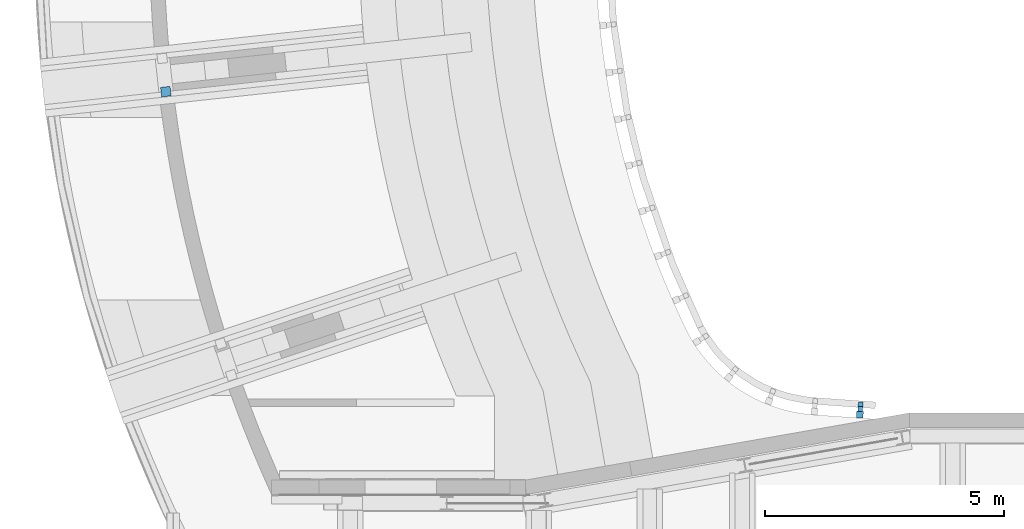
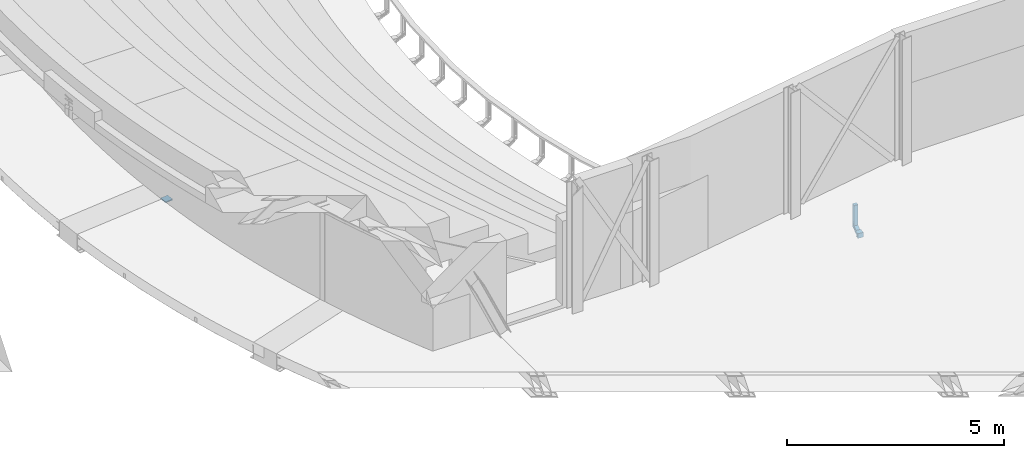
# One storey, part 35 of 68: 2 beams.
"""IFC2X3 building model written with IfcOpenShell, lengths in millimetres."""

from ifc_helpers import new_model, entity, si_unit, converted_unit, derived_unit, direction, frame, frame_2d, origin, place, context, subcontext, project, spatial, rectangle, extrude, faceted_brep, source, transform, mapped, material, type_object, type_shapes, element, save


model = new_model("IFC2X3")

# Units and contexts
model_context = context("Model", 3, precision=0.01, world=origin(), true_north=direction((6.12303176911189e-17, 1.0)))
body_context = subcontext(model_context, "Body", "Model", "MODEL_VIEW")
ifc_project = project(units=[si_unit("LENGTHUNIT", "METRE", prefix="MILLI"), si_unit("AREAUNIT", "SQUARE_METRE", prefix="MILLI"), si_unit("VOLUMEUNIT", "CUBIC_METRE"), converted_unit("PLANEANGLEUNIT", "DEGREE", entity("IfcRatioMeasure", 0.0174532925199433), si_unit("PLANEANGLEUNIT", "RADIAN"), dimensions=[0, 0, 0, 0, 0, 0, 0]), si_unit("MASSUNIT", "GRAM", prefix="KILO"), derived_unit("MASSDENSITYUNIT", [(si_unit("MASSUNIT", "GRAM", prefix="KILO"), 1), (si_unit("LENGTHUNIT", "METRE"), -3)]), derived_unit("MOMENTOFINERTIAUNIT", [(si_unit("LENGTHUNIT", "METRE"), 4)]), si_unit("TIMEUNIT", "SECOND"), si_unit("FREQUENCYUNIT", "HERTZ"), si_unit("THERMODYNAMICTEMPERATUREUNIT", "DEGREE_CELSIUS"), derived_unit("THERMALTRANSMITTANCEUNIT", [(si_unit("MASSUNIT", "GRAM", prefix="KILO"), 1), (si_unit("THERMODYNAMICTEMPERATUREUNIT", "KELVIN"), -1), (si_unit("TIMEUNIT", "SECOND"), -3)]), derived_unit("VOLUMETRICFLOWRATEUNIT", [(si_unit("LENGTHUNIT", "METRE"), 3), (si_unit("TIMEUNIT", "SECOND"), -1)]), si_unit("ELECTRICCURRENTUNIT", "AMPERE"), si_unit("ELECTRICVOLTAGEUNIT", "VOLT"), si_unit("POWERUNIT", "WATT"), si_unit("FORCEUNIT", "NEWTON", prefix="KILO"), si_unit("ILLUMINANCEUNIT", "LUX"), si_unit("LUMINOUSFLUXUNIT", "LUMEN"), si_unit("LUMINOUSINTENSITYUNIT", "CANDELA"), derived_unit("USERDEFINED", [(si_unit("MASSUNIT", "GRAM", prefix="KILO"), -1), (si_unit("LENGTHUNIT", "METRE"), -2), (si_unit("TIMEUNIT", "SECOND"), 3), (si_unit("LUMINOUSFLUXUNIT", "LUMEN"), 1)]), derived_unit("LINEARVELOCITYUNIT", [(si_unit("LENGTHUNIT", "METRE"), 1), (si_unit("TIMEUNIT", "SECOND"), -1)]), si_unit("PRESSUREUNIT", "PASCAL"), derived_unit("USERDEFINED", [(si_unit("LENGTHUNIT", "METRE"), -2), (si_unit("MASSUNIT", "GRAM", prefix="KILO"), 1), (si_unit("TIMEUNIT", "SECOND"), -2)]), derived_unit("LINEARFORCEUNIT", [(si_unit("MASSUNIT", "GRAM", prefix="KILO"), 1), (si_unit("LENGTHUNIT", "METRE"), 1), (si_unit("TIMEUNIT", "SECOND"), -2), (si_unit("LENGTHUNIT", "METRE"), -1)]), derived_unit("PLANARFORCEUNIT", [(si_unit("MASSUNIT", "GRAM", prefix="KILO"), 1), (si_unit("LENGTHUNIT", "METRE"), 1), (si_unit("TIMEUNIT", "SECOND"), -2), (si_unit("LENGTHUNIT", "METRE"), -2)])], contexts=[model_context])

# Site, building, storey
site_placement = place(None, origin())
site = spatial("IfcSite", under=ifc_project, at=site_placement, Name="Theater aan de Parade", CompositionType="ELEMENT")
building_placement = place(site_placement, origin())
building = spatial("IfcBuilding", under=site, at=building_placement, Name="Theater aan de Parade", CompositionType="ELEMENT")
storey_placement = place(building_placement, frame((0.0, 0.0, 8750.0)))
storey = spatial("IfcBuildingStorey", under=building, at=storey_placement, Name="02 tweede verdieping", CompositionType="ELEMENT", Elevation=8750.0)

# Beams
ifc_material_1 = material(Name="00_PBT_MAT_staal")
beam_type_1 = type_object("IfcBeamType", Name="28_PBT_SF_staal_strip:strip 200x30_opgelaste plaat", PredefinedType="NOTDEFINED")
beam_1_placement = place(storey_placement, frame((43956.1468359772, 29064.9993472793, 0.0), z_axis=(0.0, 0.0, 1.0), x_axis=(0.99427629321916, 0.106839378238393, 0.0)))
element("IfcBeam", 1, at=beam_1_placement, inside=storey, type_object=beam_type_1, material=ifc_material_1, Name="28_PBT_SF_staal_strip:strip 200x30_opgelaste plaat", ObjectType="28_PBT_SF_staal_strip:strip 200x30_opgelaste plaat", context=body_context, shape_type="SweptSolid", body=[
    extrude(rectangle(XDim=29.9999999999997, YDim=200.000000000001, at=frame_2d((0.0, 2.1600499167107e-12), x_axis=(1.0, 0.0))), frame((0.0, 0.0, -140.0), z_axis=(1.0, 0.0, 0.0), x_axis=(0.0, 0.0, -1.0)), (0.0, 0.0, 1.0), 200.000000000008),
])
ifc_material_2 = material(Name="00_PBT_MAT_staal_S355")
beam_type_2 = type_object("IfcBeamType", Name="28_PBT_SF_staal_baluster balkon:baluster HEA100", PredefinedType="BEAM", material=ifc_material_2)
shared_shape = source(origin(), body_context, "Body", "Brep", [
    faceted_brep([(50.0, 43.537813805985, 625.0), (50.0, 43.537813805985, 635.0), (50.0, -44.0, 635.0), (50.0, -44.0, 625.0), (-50.0, 43.537813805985, 625.0), (-50.0, -44.0, 625.0), (-50.0, -44.0, 635.0), (-50.0, 43.537813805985, 635.0)], [[[0, 1, 2, 3]], [[4, 5, 6, 7]], [[3, 5, 4, 0]], [[2, 6, 5, 3]], [[1, 7, 6, 2]], [[0, 4, 7, 1]]]),
    faceted_brep([(70.0, -278.0, -133.0), (70.0, -278.0, 0.0), (70.0, -290.0, 0.0), (70.0, -290.0, -133.0), (-70.0, -278.0, -133.0), (-70.0, -290.0, -133.0), (-70.0, -290.0, 0.0), (-70.0, -278.0, 0.0)], [[[0, 1, 2, 3]], [[4, 5, 6, 7]], [[3, 5, 4, 0]], [[2, 6, 5, 3]], [[1, 7, 6, 2]], [[0, 4, 7, 1]]]),
    faceted_brep([(70.0, -278.0, -133.0), (70.0, -278.0, -124.5), (14.7499999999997, -278.0, -124.5), (11.6441714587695, -278.0, -124.091109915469), (8.74999999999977, -278.0, -122.892304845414), (6.26471862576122, -278.0, -120.985281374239), (4.35769515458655, -278.0, -118.5), (3.15889008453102, -278.0, -115.60582854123), (2.74999999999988, -278.0, -112.5), (2.74999999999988, -278.0, -20.5000000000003), (3.15889008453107, -278.0, -17.39417145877), (4.35769515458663, -278.0, -14.5000000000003), (6.26471862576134, -278.0, -12.0147186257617), (8.74999999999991, -278.0, -10.107695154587), (11.6441714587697, -278.0, -8.90889008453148), (14.7499999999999, -278.0, -8.50000000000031), (70.0, -278.0, -8.50000000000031), (70.0, -278.0, 0.0), (-70.0, -278.0, 0.0), (-70.0, -278.0, -8.50000000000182), (-14.7499999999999, -278.0, -8.50000000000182), (-11.6441714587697, -278.0, -8.90889008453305), (-8.74999999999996, -278.0, -10.1076951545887), (-6.26471862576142, -278.0, -12.0147186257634), (-4.35769515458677, -278.0, -14.500000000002), (-3.15889008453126, -278.0, -17.3941714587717), (-2.75000000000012, -278.0, -20.5000000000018), (-2.75000000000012, -278.0, -112.500000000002), (-3.15889008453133, -278.0, -115.605828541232), (-4.3576951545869, -278.0, -118.500000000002), (-6.26471862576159, -278.0, -120.98528137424), (-8.75000000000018, -278.0, -122.892304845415), (-11.6441714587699, -278.0, -124.091109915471), (-14.7500000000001, -278.0, -124.500000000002), (-70.0, -278.0, -124.500000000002), (-70.0, -278.0, -133.0), (70.0, -154.37480362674, -8.50000000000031), (70.0, -151.923048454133, 0.0), (70.0, -190.285805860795, -133.0), (70.0, -187.834050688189, -124.5), (14.7499999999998, -214.852904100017, -8.50000000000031), (14.7499999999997, -154.37480362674, -8.50000000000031), (-70.0, -154.37480362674, -8.50000000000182), (-14.7500000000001, -154.37480362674, -8.50000000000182), (-14.7500000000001, -214.852905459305, -8.50000000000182), (6.43965673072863, -216.327371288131, -11.8433150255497), (2.74999999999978, -217.521904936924, -20.5000000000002), (12.079748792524, -154.461585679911, -8.8008650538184), (9.5433951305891, -154.717580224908, -9.68837358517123), (5.36802221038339, -155.678018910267, -13.0181223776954), (7.26812237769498, -155.129950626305, -11.1180222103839), (2.74999999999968, -157.83610504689, -20.5000000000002), (3.05086505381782, -157.065893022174, -17.8297487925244), (3.9383735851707, -156.334302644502, -15.2933951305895), (2.74999999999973, -184.372749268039, -112.5), (3.93837358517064, -185.874551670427, -117.706604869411), (3.05086505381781, -185.142961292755, -115.170251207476), (5.36802221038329, -186.530835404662, -119.981877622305), (7.26812237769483, -187.078903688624, -121.881977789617), (9.54339513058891, -187.491274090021, -123.311626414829), (12.0797487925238, -187.747268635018, -124.199134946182), (14.7499999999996, -187.834050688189, -124.5), (-14.7500000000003, -187.83405068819, -124.500000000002), (-70.0, -187.83405068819, -124.500000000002), (-70.0, -190.285805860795, -133.0), (-70.0, -151.923048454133, 0.0), (-9.54339513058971, -187.491274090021, -123.311626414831), (-12.0797487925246, -187.747268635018, -124.199134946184), (-7.2681223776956, -187.078903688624, -121.881977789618), (-5.36802221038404, -186.530835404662, -119.981877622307), (-3.93837358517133, -185.874551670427, -117.706604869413), (-3.05086505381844, -185.142961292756, -115.170251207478), (-2.75000000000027, -184.37274926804, -112.500000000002), (-2.75000000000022, -217.521899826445, -20.500000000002), (-2.75000000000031, -157.83610504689, -20.500000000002), (-6.43965718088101, -216.327373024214, -11.8433145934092), (-3.05086505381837, -157.065893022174, -17.8297487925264), (-3.93837358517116, -156.334302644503, -15.2933951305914), (-7.2681223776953, -155.129950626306, -11.1180222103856), (-5.36802221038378, -155.678018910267, -13.0181223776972), (-12.0797487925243, -154.461585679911, -8.80086505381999), (-9.54339513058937, -154.717580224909, -9.68837358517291)], [[[0, 1, 2, 3, 4, 5, 6, 7, 8, 9, 10, 11, 12, 13, 14, 15, 16, 17, 18, 19, 20, 21, 22, 23, 24, 25, 26, 27, 28, 29, 30, 31, 32, 33, 34, 35]], [[36, 37, 17, 16]], [[38, 39, 1, 0]], [[36, 16, 15, 40, 41]], [[19, 42, 43, 44, 20]], [[13, 45, 14]], [[12, 45, 13]], [[46, 45, 11]], [[47, 41, 40]], [[14, 40, 15]], [[45, 12, 11]], [[48, 47, 40]], [[49, 50, 45]], [[10, 9, 46]], [[40, 45, 48]], [[11, 10, 46]], [[46, 51, 52]], [[53, 46, 52]], [[46, 53, 45]], [[45, 53, 49]], [[45, 50, 48]], [[14, 45, 40]], [[54, 51, 46, 9, 8]], [[7, 6, 55]], [[8, 7, 56]], [[56, 54, 8]], [[57, 55, 6]], [[56, 7, 55]], [[6, 5, 57]], [[58, 5, 4]], [[59, 4, 3]], [[60, 3, 2]], [[59, 58, 4]], [[61, 60, 2]], [[59, 3, 60]], [[5, 58, 57]], [[39, 61, 2, 1]], [[62, 63, 34, 33]], [[38, 0, 35, 64]], [[64, 35, 34, 63]], [[42, 19, 18, 65]], [[32, 31, 66]], [[33, 32, 67]], [[67, 62, 33]], [[68, 66, 31]], [[67, 32, 66]], [[31, 30, 68]], [[69, 30, 29]], [[70, 29, 28]], [[71, 28, 27]], [[70, 69, 29]], [[72, 71, 27]], [[70, 28, 71]], [[30, 69, 68]], [[72, 27, 26, 73, 74]], [[25, 24, 73]], [[24, 23, 75]], [[75, 22, 21]], [[76, 74, 73]], [[75, 23, 22]], [[73, 77, 76]], [[78, 79, 75]], [[44, 80, 81]], [[73, 75, 77]], [[25, 73, 26]], [[21, 44, 75]], [[21, 20, 44]], [[43, 80, 44]], [[44, 81, 75]], [[78, 75, 81]], [[75, 79, 77]], [[73, 24, 75]], [[37, 65, 18, 17]], [[39, 38, 64, 63, 62, 67, 66, 68, 69, 70, 71, 72, 74, 76, 77, 79, 78, 81, 80, 43, 42, 65, 37, 36, 41, 47, 48, 50, 49, 53, 52, 51, 54, 56, 55, 57, 58, 59, 60, 61]]]),
    faceted_brep([(50.0, 48.0, 106.188021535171), (50.0, 48.0, 115.425625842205), (50.0, -151.923048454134, 0.0), (50.0, -155.119944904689, -11.0833333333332), (50.0, 48.0, 4.57437415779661), (50.0, 48.0, 13.8119784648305), (50.0, -187.08890941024, -121.916666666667), (50.0, -190.285805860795, -133.0), (14.4999999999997, -155.119944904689, -11.0833333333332), (14.4999999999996, -56.7511342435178, 45.7099259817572), (14.4999999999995, -4.37557443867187, 75.9489695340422), (14.4999999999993, 48.0, 106.188021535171), (-50.0, -155.119944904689, -11.0833333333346), (-50.0, 48.0, 106.188021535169), (-14.5000000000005, 48.0, 106.188021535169), (-14.5000000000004, -4.37556718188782, 75.9489737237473), (-14.5000000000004, -56.7511343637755, 45.7099259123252), (-14.5000000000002, -155.119944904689, -11.0833333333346), (9.9077988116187, -155.484968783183, -12.348836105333), (6.13940978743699, -85.6560198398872, 25.1051305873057), (12.1589161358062, -155.212086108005, -11.4027780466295), (2.49999999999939, -4.37556820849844, 62.0925666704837), (2.49999999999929, 48.0, 92.3316150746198), (2.80086505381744, 48.0, 95.4149555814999), (6.04197655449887, -10.2229142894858, 68.5459327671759), (2.49999999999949, -55.1641531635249, 32.769763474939), (2.73057663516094, -158.979764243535, -24.4649567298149), (2.49999999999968, -159.915289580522, -27.7083333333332), (2.49999999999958, -107.539721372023, 2.53071507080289), (7.83315720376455, -155.92810620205, -13.8851510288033), (11.8297487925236, 48.0, 105.840612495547), (4.52236465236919, -157.25113882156, -18.4719782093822), (3.41344560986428, -158.0801906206, -21.3462212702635), (5.11802221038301, 48.0, 100.970943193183), (7.01812237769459, 48.0, 103.164989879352), (3.68837358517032, 48.0, 98.3436845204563), (9.29339513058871, 48.0, 104.815805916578), (6.01471862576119, -156.524468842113, -15.9526830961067), (2.49999999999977, -182.293564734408, -105.291666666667), (2.49999999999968, -129.917998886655, -75.052619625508), (2.49999999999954, -56.7511354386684, -32.8097113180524), (2.49999999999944, -4.3755695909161, -2.57066427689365), (2.49999999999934, 48.0, 27.6683849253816), (6.01471862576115, -185.684385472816, -117.047316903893), (6.30956465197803, -103.743785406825, -70.0679088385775), (4.52236465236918, -184.957715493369, -114.528021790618), (7.83315720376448, -186.280748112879, -119.114848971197), (9.90779881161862, -186.723885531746, -120.651163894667), (14.4999999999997, -134.713341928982, -91.677618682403), (12.1589161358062, -186.996768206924, -121.597221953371), (14.4999999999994, -4.37556748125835, -16.4270695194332), (5.87838992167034, -26.389988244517, -24.9186641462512), (14.4999999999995, -69.5444547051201, -54.0523441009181), (5.11802221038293, 48.0, 19.0290568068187), (3.4134456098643, -184.128663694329, -111.653778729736), (2.80086505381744, 48.0, 24.5850444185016), (3.68837358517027, 48.0, 21.6563154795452), (14.4999999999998, -187.08890941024, -121.916666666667), (7.01812237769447, 48.0, 16.8350101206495), (9.29339513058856, 48.0, 15.1841940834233), (2.73057663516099, -183.229090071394, -108.535043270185), (11.8297487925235, 48.0, 14.1593875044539), (14.4999999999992, 48.0, 13.8119784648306), (-50.0, -187.088909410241, -121.916666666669), (-14.5000000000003, -187.088909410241, -121.916666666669), (-14.5000000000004, -134.713341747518, -91.6776185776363), (-14.5000000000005, -69.544456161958, -54.0523449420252), (-14.5000000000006, -4.37556766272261, -16.427069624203), (-14.5000000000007, 48.0, 13.8119784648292), (-50.0, 48.0, 13.8119784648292), (-50.0, -190.285805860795, -133.0), (-50.0, 48.0, 4.57437415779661), (-50.0, -151.923048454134, 0.0), (-50.0, 48.0, 115.425625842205), (-6.30956482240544, -103.743788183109, -70.0679106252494), (-4.52236465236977, -184.95771549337, -114.52802179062), (-3.41344560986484, -184.128663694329, -111.653778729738), (-2.50000000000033, -129.917995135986, -75.0526174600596), (-5.87838988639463, -26.3899865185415, -24.9186631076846), (-7.01812237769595, 48.0, 16.835010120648), (-9.29339513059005, 48.0, 15.1841940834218), (-6.01471862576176, -185.684385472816, -117.047316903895), (-7.8331572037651, -186.28074811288, -119.114848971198), (-11.829748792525, 48.0, 14.1593875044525), (-2.50000000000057, -4.37556959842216, -2.57066428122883), (-5.11802221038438, 48.0, 19.0290568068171), (-2.7305766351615, -183.229090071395, -108.535043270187), (-2.50000000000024, -182.293564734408, -105.291666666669), (-9.90779881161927, -186.723885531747, -120.651163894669), (-12.1589161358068, -186.996768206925, -121.597221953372), (-2.50000000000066, 48.0, 27.6683849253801), (-2.80086505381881, 48.0, 24.5850444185), (-2.50000000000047, -56.7511295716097, -32.809707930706), (-3.68837358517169, 48.0, 21.6563154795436), (-2.50000000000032, -159.915289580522, -27.708333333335), (-2.50000000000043, -107.539724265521, 2.53071340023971), (-2.50000000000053, -55.1641511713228, 32.7697646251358), (-2.50000000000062, -4.37556531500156, 62.0925683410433), (-2.50000000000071, 48.0, 92.3316150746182), (-2.73057663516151, -158.979764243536, -24.464956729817), (-11.8297487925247, 48.0, 105.840612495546), (-7.83315720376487, -155.92810620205, -13.885151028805), (-6.13940988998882, -85.6560228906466, 25.1051289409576), (-6.01471862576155, -156.524468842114, -15.9526830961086), (-6.04197656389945, -10.2229155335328, 68.5459320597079), (-7.0181223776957, 48.0, 103.16498987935), (-5.11802221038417, 48.0, 100.970943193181), (-9.90779881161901, -155.484968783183, -12.3488361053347), (-4.52236465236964, -157.25113882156, -18.4719782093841), (-3.68837358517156, 48.0, 98.3436845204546), (-2.80086505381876, 48.0, 95.4149555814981), (-12.1589161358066, -155.212086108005, -11.402778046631), (-3.41344560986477, -158.080190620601, -21.3462212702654), (-9.29339513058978, 48.0, 104.815805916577)], [[[0, 1, 2, 3]], [[4, 5, 6, 7]], [[0, 3, 8, 9, 10, 11]], [[12, 13, 14, 15, 16, 17]], [[18, 19, 20]], [[21, 22, 23]], [[24, 25, 21]], [[26, 27, 28]], [[19, 18, 29]], [[25, 19, 28]], [[9, 24, 10]], [[20, 9, 8]], [[19, 9, 20]], [[19, 24, 9]], [[25, 24, 19]], [[30, 11, 10]], [[28, 31, 32]], [[24, 33, 34]], [[33, 24, 35]], [[35, 24, 21]], [[36, 24, 34]], [[28, 32, 26]], [[31, 19, 37]], [[30, 10, 36]], [[31, 28, 19]], [[35, 21, 23]], [[36, 10, 24]], [[37, 19, 29]], [[27, 38, 39, 40, 41, 42, 22, 21, 25, 28]], [[43, 44, 45]], [[46, 47, 48]], [[48, 47, 49]], [[50, 51, 52]], [[53, 41, 51]], [[54, 45, 44]], [[55, 42, 41]], [[55, 41, 56]], [[49, 57, 48]], [[40, 39, 44]], [[58, 53, 51]], [[43, 46, 44]], [[51, 59, 58]], [[39, 54, 44]], [[54, 39, 60]], [[40, 44, 51]], [[61, 50, 62]], [[41, 40, 51]], [[44, 48, 52]], [[44, 46, 48]], [[56, 41, 53]], [[39, 38, 60]], [[59, 50, 61]], [[51, 44, 52]], [[51, 50, 59]], [[5, 62, 50, 52, 48, 57, 6]], [[63, 64, 65, 66, 67, 68, 69]], [[4, 7, 70, 71]], [[71, 70, 63, 69]], [[13, 12, 72, 73]], [[66, 65, 74]], [[75, 76, 74]], [[77, 74, 76]], [[78, 79, 80]], [[81, 74, 82]], [[83, 67, 80]], [[78, 84, 85]], [[86, 87, 77]], [[88, 82, 65]], [[88, 65, 89]], [[84, 90, 91]], [[66, 74, 78]], [[78, 80, 67]], [[92, 78, 74]], [[83, 68, 67]], [[84, 78, 92]], [[93, 84, 91]], [[93, 85, 84]], [[74, 65, 82]], [[78, 85, 79]], [[64, 89, 65]], [[74, 81, 75]], [[74, 77, 92]], [[86, 77, 76]], [[66, 78, 67]], [[94, 95, 96, 97, 98, 90, 84, 92, 77, 87]], [[94, 99, 95]], [[15, 14, 100]], [[101, 102, 103]], [[104, 105, 106]], [[107, 102, 101]], [[103, 102, 108]], [[16, 104, 102]], [[104, 96, 102]], [[102, 95, 108]], [[109, 110, 97]], [[107, 111, 102]], [[96, 104, 97]], [[109, 104, 106]], [[112, 95, 99]], [[16, 15, 104]], [[95, 112, 108]], [[113, 15, 100]], [[16, 102, 111]], [[97, 104, 109]], [[102, 96, 95]], [[113, 104, 15]], [[111, 17, 16]], [[105, 104, 113]], [[110, 98, 97]], [[1, 73, 72, 2]], [[5, 4, 71, 69, 68, 83, 80, 79, 85, 93, 91, 90, 98, 110, 109, 106, 105, 113, 100, 14, 13, 73, 1, 0, 11, 30, 36, 34, 33, 35, 23, 22, 42, 55, 56, 53, 58, 59, 61, 62]], [[3, 2, 72, 12, 17, 111, 107, 101, 103, 108, 112, 99, 94, 87, 86, 76, 75, 81, 82, 88, 89, 64, 63, 70, 7, 6, 57, 49, 47, 46, 43, 45, 54, 60, 38, 27, 26, 32, 31, 37, 29, 18, 20, 8]]]),
    faceted_brep([(50.0, -48.0, 625.0), (50.0, -40.0, 625.0), (14.4999999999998, -40.0, 625.0), (11.3941714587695, -39.5911099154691, 625.0), (8.4999999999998, -38.3923048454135, 625.0), (6.01471862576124, -36.4852813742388, 625.0), (4.10769515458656, -34.0, 625.0), (2.90889008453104, -31.1058285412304, 625.0), (2.49999999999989, -28.0, 625.0), (2.49999999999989, 28.0, 625.0), (2.90889008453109, 31.10582854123, 625.0), (4.10769515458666, 34.0, 625.0), (6.01471862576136, 36.4852813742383, 625.0), (8.49999999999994, 38.392304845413, 625.0), (11.3941714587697, 39.5911099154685, 625.0), (14.4999999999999, 40.0, 625.0), (50.0, 40.0, 625.0), (50.0, 48.0, 625.0), (-50.0, 48.0, 625.0), (-50.0, 40.0, 625.0), (-14.4999999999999, 40.0, 625.0), (-11.3941714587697, 39.5911099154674, 625.0), (-8.49999999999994, 38.3923048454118, 625.0), (-6.01471862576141, 36.4852813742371, 625.0), (-4.10769515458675, 34.0, 625.0), (-2.90889008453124, 31.1058285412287, 625.0), (-2.50000000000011, 28.0, 625.0), (-2.5000000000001, -28.0, 625.0), (-2.90889008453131, -31.1058285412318, 625.0), (-4.10769515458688, -34.0, 625.0), (-6.01471862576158, -36.4852813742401, 625.0), (-8.50000000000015, -38.3923048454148, 625.0), (-11.3941714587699, -39.5911099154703, 625.0), (-14.5000000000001, -40.0, 625.0), (-50.0, -40.0, 625.0), (-50.0, -48.0, 625.0), (50.0, 48.0, 165.0), (50.0, 40.0, -0.0444279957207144), (50.0, 48.0, 4.57437415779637), (50.0, -40.0, -46.2324495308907), (50.0, -48.0, -50.8512516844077), (14.4999999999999, 40.0, 564.521909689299), (14.4999999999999, 40.0, 468.738898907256), (14.4999999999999, 40.0, 390.608336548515), (14.4999999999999, 40.0, 312.477797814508), (14.4999999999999, 40.0, 234.347235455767), (14.4999999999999, 40.0, 156.216673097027), (14.4999999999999, 40.0, 60.4336623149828), (14.4999999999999, 40.0, -0.0444279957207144), (-50.0, 40.0, -0.0444279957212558), (-14.4999999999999, 40.0, -0.0444279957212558), (-14.4999999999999, 40.0, 60.4336769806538), (-14.4999999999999, 40.0, 156.21667900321), (-14.5, 40.0, 234.34724221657), (-14.5, 40.0, 312.477786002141), (-14.5, 40.0, 390.608329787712), (-14.5, 40.0, 468.738893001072), (-14.5, 40.0, 564.521895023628), (6.01471822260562, 36.4852809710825, 534.282851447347), (2.49999999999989, 28.0, 504.043808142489), (2.49999999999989, 28.0, 429.969876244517), (6.38111782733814, 36.8365011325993, 422.595542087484), (9.29339513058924, 38.8116264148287, -0.730535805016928), (5.87838991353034, 36.3467262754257, 83.7445110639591), (7.01812237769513, 37.3819777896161, -1.55594382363), (2.49999999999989, 28.0, 564.521899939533), (5.11802221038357, 35.4818776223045, -2.65296716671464), (11.8297487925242, 39.6991349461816, -0.21813251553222), (6.03175640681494, 36.5022850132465, 273.412504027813), (5.33717277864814, 35.7487158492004, 157.721305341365), (2.49999999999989, 28.0, 113.983560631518), (2.49999999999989, 28.0, 53.5054688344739), (2.49999999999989, 28.0, -6.97263122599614), (2.80086505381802, 30.6702512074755, -5.43096097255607), (6.45584074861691, 36.9045775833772, 351.543056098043), (3.68837358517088, 33.2066048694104, -3.96659650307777), (2.49999999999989, 28.0, 234.939752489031), (2.49999999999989, 28.0, 174.461652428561), (2.49999999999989, 28.0, 332.454810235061), (2.49999999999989, -28.0, 564.521918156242), (2.49999999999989, -28.0, 504.043820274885), (2.49999999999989, -28.0, 443.565722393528), (2.49999999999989, -28.0, 383.08762451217), (2.49999999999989, -28.0, 277.489656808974), (2.49999999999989, -28.0, 171.891689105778), (2.49999999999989, -28.0, 81.6519494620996), (2.49999999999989, -28.0, 21.1738515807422), (2.49999999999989, -28.0, -39.3042463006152), (14.4999999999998, -40.0, 564.521903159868), (14.4999999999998, -40.0, 457.191883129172), (6.01471890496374, -36.4852816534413, 534.282850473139), (14.4999999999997, -40.0, 14.24565628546), (5.87838987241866, -36.3467262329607, 51.4128968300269), (14.4999999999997, -40.0, 74.723753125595), (14.4999999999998, -40.0, 182.053764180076), (7.12980766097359, -37.469966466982, 128.3887480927), (14.4999999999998, -40.0, 373.287829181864), (14.4999999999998, -40.0, 289.383775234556), (5.68142979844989, -36.138354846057, 331.33579860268), (6.48410362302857, -36.9300282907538, 264.631830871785), (5.11802221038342, -35.481877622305, -43.6239103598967), (3.68837358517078, -33.2066048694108, -42.3102810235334), (14.4999999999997, -40.0, -46.2324495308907), (11.8297487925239, -39.6991349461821, -46.058745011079), (9.29339513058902, -38.8116264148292, -45.5463417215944), (7.01812237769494, -37.3819777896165, -44.7209337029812), (5.85986411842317, -36.3275477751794, 197.731198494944), (5.34384824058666, -35.7566026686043, 460.437179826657), (2.80086505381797, -30.6702512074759, -40.8459165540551), (6.59968170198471, -37.0324399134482, 396.193688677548), (-50.0, -40.0, -46.2324495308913), (-14.5000000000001, -40.0, 564.521911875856), (-14.5000000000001, -40.0, 457.191887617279), (-14.5000000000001, -40.0, 373.287826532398), (-14.5000000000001, -40.0, 289.383775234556), (-14.5000000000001, -40.0, 205.479723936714), (-14.5000000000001, -40.0, 121.575662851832), (-14.5000000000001, -40.0, 14.2456483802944), (-14.5000000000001, -40.0, -46.2324495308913), (-50.0, -48.0, -50.8512516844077), (-50.0, 48.0, 165.0), (-50.0, 48.0, 4.57437415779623), (-6.01471845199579, -36.4852812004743, 534.282853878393), (-2.5000000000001, -28.0, 504.043796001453), (-5.34384807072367, -35.7566024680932, 460.437182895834), (-2.5000000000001, -28.0, 564.521907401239), (-9.29339513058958, -38.8116264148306, -45.5463417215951), (-7.01812237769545, -37.3819777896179, -44.720933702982), (-6.37223200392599, -36.8283286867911, 262.824412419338), (-5.68142973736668, -36.1383547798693, 331.33579885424), (-6.59968165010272, -37.0324398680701, 396.193689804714), (-2.5000000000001, -28.0, 383.087610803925), (-11.8297487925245, -39.6991349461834, -46.0587450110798), (-5.11802221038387, -35.4818776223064, -43.6239103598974), (-6.18948395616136, -36.6565191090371, 51.4128959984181), (-3.68837358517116, -33.2066048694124, -42.3102810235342), (-2.5000000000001, -28.0, 21.1738462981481), (-2.80086505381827, -30.6702512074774, -40.8459165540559), (-5.35181665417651, -35.7659990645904, 125.002033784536), (-2.5000000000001, -28.0, 81.6519388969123), (-2.5000000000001, -28.0, -39.304246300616), (-2.5000000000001, -28.0, 277.489641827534), (-2.5000000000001, -28.0, 443.565703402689), (-2.5000000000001, -28.0, 171.891672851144), (-5.88018165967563, -36.3485766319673, 194.135386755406), (-2.50000000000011, 28.0, 564.521898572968), (-2.50000000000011, 28.0, 504.043797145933), (-2.50000000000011, 28.0, 429.969878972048), (-2.50000000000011, 28.0, 332.454826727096), (-2.50000000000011, 28.0, 234.939757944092), (-2.50000000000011, 28.0, 174.461656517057), (-2.50000000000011, 28.0, 113.983555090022), (-2.50000000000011, 28.0, 53.5054536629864), (-2.50000000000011, 28.0, -6.97263122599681), (-5.87838991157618, 36.3467262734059, 83.7445122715), (-9.29339513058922, 38.8116264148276, -0.730535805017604), (-5.33717271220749, 35.7487157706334, 157.721307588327), (-6.01471873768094, 36.4852814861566, 534.282853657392), (-6.38111797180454, 36.8365012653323, 422.595548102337), (-6.45584072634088, 36.9045775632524, 351.543059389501), (-3.688373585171, 33.2066048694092, -3.96659650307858), (-2.80086505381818, 30.6702512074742, -5.43096097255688), (-7.01812237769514, 37.3819777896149, -1.55594382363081), (-5.11802221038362, 35.4818776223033, -2.65296716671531), (-6.03175635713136, 36.5022849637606, 273.412506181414), (-11.8297487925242, 39.6991349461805, -0.218132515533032)], [[[0, 1, 2, 3, 4, 5, 6, 7, 8, 9, 10, 11, 12, 13, 14, 15, 16, 17, 18, 19, 20, 21, 22, 23, 24, 25, 26, 27, 28, 29, 30, 31, 32, 33, 34, 35]], [[36, 17, 16, 37, 38]], [[39, 1, 0, 40]], [[37, 16, 15, 41, 42, 43, 44, 45, 46, 47, 48]], [[19, 49, 50, 51, 52, 53, 54, 55, 56, 57, 20]], [[13, 12, 58]], [[11, 58, 12]], [[58, 42, 41]], [[59, 60, 61]], [[62, 63, 64]], [[65, 11, 10]], [[66, 64, 63]], [[67, 48, 47]], [[45, 68, 69]], [[69, 70, 63]], [[65, 59, 58]], [[46, 63, 47]], [[63, 46, 69]], [[67, 47, 62]], [[41, 15, 14]], [[71, 72, 73]], [[58, 41, 13]], [[44, 74, 68]], [[43, 74, 44]], [[58, 11, 65]], [[13, 41, 14]], [[75, 71, 73]], [[47, 63, 62]], [[71, 63, 70]], [[75, 66, 71]], [[59, 61, 58]], [[63, 71, 66]], [[10, 9, 65]], [[44, 68, 45]], [[69, 76, 77, 70]], [[69, 46, 45]], [[68, 78, 76]], [[74, 60, 78]], [[69, 68, 76]], [[74, 43, 61]], [[60, 74, 61]], [[68, 74, 78]], [[43, 42, 61]], [[58, 61, 42]], [[8, 79, 80, 81, 82, 83, 84, 85, 86, 87, 72, 71, 70, 77, 76, 78, 60, 59, 65, 9]], [[3, 88, 4]], [[88, 89, 90]], [[91, 92, 93]], [[4, 90, 5]], [[92, 86, 85]], [[94, 93, 95]], [[5, 90, 6]], [[96, 97, 98]], [[99, 98, 97]], [[92, 100, 101]], [[90, 80, 79]], [[6, 79, 7]], [[86, 92, 101]], [[91, 102, 103]], [[104, 91, 103]], [[90, 79, 6]], [[92, 105, 100]], [[104, 105, 91]], [[99, 94, 106]], [[90, 4, 88]], [[80, 90, 107]], [[3, 2, 88]], [[101, 108, 86]], [[108, 87, 86]], [[92, 91, 105]], [[79, 8, 7]], [[94, 95, 106]], [[85, 84, 95]], [[107, 90, 89]], [[85, 95, 92]], [[92, 95, 93]], [[106, 95, 84]], [[89, 96, 109]], [[109, 81, 107]], [[81, 109, 82]], [[96, 98, 109]], [[83, 82, 98]], [[84, 83, 106]], [[83, 98, 99]], [[94, 99, 97]], [[83, 99, 106]], [[82, 109, 98]], [[81, 80, 107]], [[89, 109, 107]], [[1, 39, 102, 91, 93, 94, 97, 96, 89, 88, 2]], [[110, 34, 33, 111, 112, 113, 114, 115, 116, 117, 118]], [[119, 40, 0, 35]], [[110, 119, 35, 34]], [[120, 121, 49, 19, 18]], [[122, 31, 30]], [[122, 111, 31]], [[122, 123, 124]], [[122, 125, 123]], [[126, 117, 127]], [[111, 33, 32]], [[31, 111, 32]], [[112, 122, 124]], [[128, 114, 129]], [[130, 131, 129]], [[132, 118, 117]], [[133, 127, 134]], [[29, 122, 30]], [[117, 116, 134]], [[135, 133, 134]], [[135, 136, 137]], [[122, 112, 111]], [[134, 136, 135]], [[134, 138, 139]], [[136, 134, 139]], [[29, 125, 122]], [[140, 137, 136]], [[132, 117, 126]], [[28, 27, 125]], [[134, 127, 117]], [[125, 29, 28]], [[138, 134, 116]], [[131, 141, 129]], [[124, 123, 142]], [[130, 112, 124]], [[113, 129, 114]], [[130, 129, 113]], [[143, 139, 138]], [[116, 115, 144]], [[144, 138, 116]], [[138, 144, 143]], [[128, 141, 144]], [[128, 115, 114]], [[141, 143, 144]], [[141, 128, 129]], [[115, 128, 144]], [[112, 130, 113]], [[130, 142, 131]], [[130, 124, 142]], [[27, 26, 145, 146, 147, 148, 149, 150, 151, 152, 153, 140, 136, 139, 143, 141, 131, 142, 123, 125]], [[22, 21, 57]], [[154, 51, 155]], [[154, 151, 156]], [[146, 145, 157]], [[23, 157, 24]], [[23, 22, 157]], [[158, 55, 159]], [[57, 56, 157]], [[152, 160, 161]], [[52, 154, 156]], [[21, 20, 57]], [[24, 145, 25]], [[25, 145, 26]], [[162, 163, 154]], [[158, 159, 147]], [[157, 145, 24]], [[161, 153, 152]], [[154, 155, 162]], [[152, 151, 154]], [[154, 163, 152]], [[148, 159, 164]], [[51, 50, 165]], [[51, 154, 52]], [[157, 22, 57]], [[152, 163, 160]], [[155, 51, 165]], [[157, 56, 158]], [[157, 158, 146]], [[156, 151, 150, 149]], [[164, 156, 149]], [[164, 54, 53]], [[53, 52, 156]], [[156, 164, 53]], [[54, 159, 55]], [[148, 164, 149]], [[164, 159, 54]], [[147, 159, 148]], [[158, 147, 146]], [[56, 55, 158]], [[120, 18, 17, 36, 38, 121]], [[39, 40, 119, 110, 118, 132, 126, 127, 133, 135, 137, 140, 153, 161, 160, 163, 162, 155, 165, 50, 49, 121, 38, 37, 48, 67, 62, 64, 66, 75, 73, 72, 87, 108, 101, 100, 105, 104, 103, 102]]]),
])
type_shapes(beam_type_2, [shared_shape])
beam_2_placement = place(storey_placement, frame((58620.1788204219, 22523.0660278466, -2040.0), z_axis=(0.0, 0.0, 1.0), x_axis=(0.997491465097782, -0.0707868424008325, 0.0)))
element("IfcBeam", 2, at=beam_2_placement, inside=storey, type_object=beam_type_2, material=ifc_material_2, Name="28_PBT_SF_staal_baluster balkon:baluster HEA100", ObjectType="28_PBT_SF_staal_baluster balkon:baluster HEA100", context=body_context, shape_type="MappedRepresentation", body=[
    mapped(shared_shape, transform((0.0, 0.0, 0.0), scale=1.0)),
])

save(model, "model.ifc")
